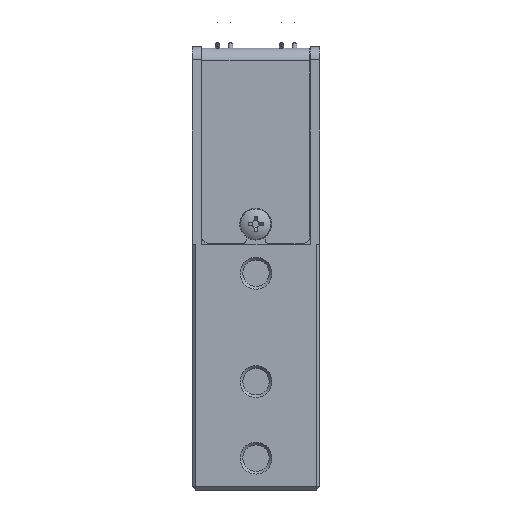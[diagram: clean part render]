
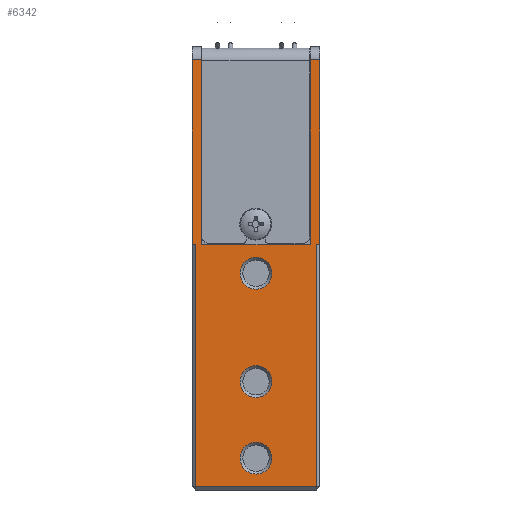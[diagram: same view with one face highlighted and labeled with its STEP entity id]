
A CAD part, left-side view. The second image highlights one B-rep face of the part: STEP entity #6342.
In plain terms, the highlighted planar face has unit normal (-1, 0, 0).
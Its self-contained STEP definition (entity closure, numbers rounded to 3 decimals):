
#269=FACE_BOUND('',#824,.T.);
#270=FACE_BOUND('',#825,.T.);
#271=FACE_BOUND('',#826,.T.);
#480=FACE_OUTER_BOUND('',#823,.T.);
#823=EDGE_LOOP('',(#4665,#4666,#4667,#4668,#4669,#4670,#4671,#4672,#4673,
#4674,#4675,#4676,#4677));
#824=EDGE_LOOP('',(#4678));
#825=EDGE_LOOP('',(#4679));
#826=EDGE_LOOP('',(#4680));
#1184=CIRCLE('',#6788,2.5);
#1187=CIRCLE('',#6794,2.5);
#1203=CIRCLE('',#6822,2.5);
#1506=LINE('',#10340,#2023);
#1616=LINE('',#10601,#2133);
#1617=LINE('',#10603,#2134);
#1618=LINE('',#10605,#2135);
#1619=LINE('',#10607,#2136);
#1620=LINE('',#10609,#2137);
#1621=LINE('',#10611,#2138);
#1622=LINE('',#10612,#2139);
#1623=LINE('',#10614,#2140);
#1624=LINE('',#10616,#2141);
#1625=LINE('',#10618,#2142);
#1626=LINE('',#10620,#2143);
#1627=LINE('',#10621,#2144);
#2023=VECTOR('',#7912,10.);
#2133=VECTOR('',#8098,10.);
#2134=VECTOR('',#8099,10.);
#2135=VECTOR('',#8100,10.);
#2136=VECTOR('',#8101,10.);
#2137=VECTOR('',#8102,10.);
#2138=VECTOR('',#8103,10.);
#2139=VECTOR('',#8104,10.);
#2140=VECTOR('',#8105,10.);
#2141=VECTOR('',#8106,10.);
#2142=VECTOR('',#8107,10.);
#2143=VECTOR('',#8108,10.);
#2144=VECTOR('',#8109,10.);
#2597=VERTEX_POINT('',#10089);
#2600=VERTEX_POINT('',#10100);
#2631=VERTEX_POINT('',#10320);
#2637=VERTEX_POINT('',#10337);
#2638=VERTEX_POINT('',#10339);
#2726=VERTEX_POINT('',#10599);
#2727=VERTEX_POINT('',#10600);
#2728=VERTEX_POINT('',#10602);
#2729=VERTEX_POINT('',#10604);
#2730=VERTEX_POINT('',#10606);
#2731=VERTEX_POINT('',#10608);
#2732=VERTEX_POINT('',#10610);
#2733=VERTEX_POINT('',#10613);
#2734=VERTEX_POINT('',#10615);
#2735=VERTEX_POINT('',#10617);
#2736=VERTEX_POINT('',#10619);
#3276=EDGE_CURVE('',#2597,#2597,#1184,.T.);
#3281=EDGE_CURVE('',#2600,#2600,#1187,.T.);
#3322=EDGE_CURVE('',#2631,#2631,#1203,.T.);
#3331=EDGE_CURVE('',#2638,#2637,#1506,.T.);
#3451=EDGE_CURVE('',#2726,#2727,#1616,.T.);
#3452=EDGE_CURVE('',#2728,#2726,#1617,.T.);
#3453=EDGE_CURVE('',#2729,#2728,#1618,.T.);
#3454=EDGE_CURVE('',#2730,#2729,#1619,.T.);
#3455=EDGE_CURVE('',#2731,#2730,#1620,.T.);
#3456=EDGE_CURVE('',#2732,#2731,#1621,.T.);
#3457=EDGE_CURVE('',#2732,#2638,#1622,.T.);
#3458=EDGE_CURVE('',#2637,#2733,#1623,.T.);
#3459=EDGE_CURVE('',#2733,#2734,#1624,.T.);
#3460=EDGE_CURVE('',#2735,#2734,#1625,.T.);
#3461=EDGE_CURVE('',#2736,#2735,#1626,.T.);
#3462=EDGE_CURVE('',#2727,#2736,#1627,.T.);
#4665=ORIENTED_EDGE('',*,*,#3451,.F.);
#4666=ORIENTED_EDGE('',*,*,#3452,.F.);
#4667=ORIENTED_EDGE('',*,*,#3453,.F.);
#4668=ORIENTED_EDGE('',*,*,#3454,.F.);
#4669=ORIENTED_EDGE('',*,*,#3455,.F.);
#4670=ORIENTED_EDGE('',*,*,#3456,.F.);
#4671=ORIENTED_EDGE('',*,*,#3457,.T.);
#4672=ORIENTED_EDGE('',*,*,#3331,.T.);
#4673=ORIENTED_EDGE('',*,*,#3458,.T.);
#4674=ORIENTED_EDGE('',*,*,#3459,.T.);
#4675=ORIENTED_EDGE('',*,*,#3460,.F.);
#4676=ORIENTED_EDGE('',*,*,#3461,.F.);
#4677=ORIENTED_EDGE('',*,*,#3462,.F.);
#4678=ORIENTED_EDGE('',*,*,#3276,.T.);
#4679=ORIENTED_EDGE('',*,*,#3281,.T.);
#4680=ORIENTED_EDGE('',*,*,#3322,.T.);
#5763=PLANE('',#6865);
#6342=ADVANCED_FACE('',(#480,#269,#270,#271),#5763,.T.);
#6788=AXIS2_PLACEMENT_3D('',#10090,#7807,#7808);
#6794=AXIS2_PLACEMENT_3D('',#10101,#7821,#7822);
#6822=AXIS2_PLACEMENT_3D('',#10321,#7894,#7895);
#6865=AXIS2_PLACEMENT_3D('',#10598,#8096,#8097);
#7807=DIRECTION('center_axis',(1.,0.,0.));
#7808=DIRECTION('ref_axis',(0.,0.,1.));
#7821=DIRECTION('center_axis',(1.,0.,0.));
#7822=DIRECTION('ref_axis',(0.,0.,1.));
#7894=DIRECTION('center_axis',(1.,0.,0.));
#7895=DIRECTION('ref_axis',(0.,0.,1.));
#7912=DIRECTION('',(0.,1.,0.));
#8096=DIRECTION('center_axis',(-1.,0.,0.));
#8097=DIRECTION('ref_axis',(0.,0.,1.));
#8098=DIRECTION('',(0.,0.,1.));
#8099=DIRECTION('',(0.,1.,0.));
#8100=DIRECTION('',(0.,0.,-1.));
#8101=DIRECTION('',(0.,1.,0.));
#8102=DIRECTION('',(0.,0.,-1.));
#8103=DIRECTION('',(0.,-1.,0.));
#8104=DIRECTION('',(0.,0.,-1.));
#8105=DIRECTION('',(0.,0.,1.));
#8106=DIRECTION('',(0.,0.,1.));
#8107=DIRECTION('',(0.,-1.,0.));
#8108=DIRECTION('',(0.,0.,1.));
#8109=DIRECTION('',(0.,1.,0.));
#10089=CARTESIAN_POINT('',(0.,-10.,14.5));
#10090=CARTESIAN_POINT('Origin',(0.,-10.,17.));
#10100=CARTESIAN_POINT('',(0.,-10.,2.5));
#10101=CARTESIAN_POINT('Origin',(0.,-10.,5.));
#10320=CARTESIAN_POINT('',(0.,-10.,31.5));
#10321=CARTESIAN_POINT('Origin',(0.,-10.,34.));
#10337=CARTESIAN_POINT('',(0.,-1.5,38.5));
#10339=CARTESIAN_POINT('',(0.,-18.5,38.5));
#10340=CARTESIAN_POINT('',(0.,-20.,38.5));
#10598=CARTESIAN_POINT('Origin',(0.,-20.,0.));
#10599=CARTESIAN_POINT('',(0.,-0.5,0.5));
#10600=CARTESIAN_POINT('',(0.,-0.5,38.5));
#10601=CARTESIAN_POINT('',(0.,-0.5,0.));
#10602=CARTESIAN_POINT('',(0.,-19.5,0.5));
#10603=CARTESIAN_POINT('',(0.,-15.,0.5));
#10604=CARTESIAN_POINT('',(0.,-19.5,38.5));
#10605=CARTESIAN_POINT('',(0.,-19.5,0.));
#10606=CARTESIAN_POINT('',(0.,-20.,38.5));
#10607=CARTESIAN_POINT('',(0.,-20.,38.5));
#10608=CARTESIAN_POINT('',(0.,-20.,67.5));
#10609=CARTESIAN_POINT('',(0.,-20.,69.5));
#10610=CARTESIAN_POINT('',(0.,-18.5,67.5));
#10611=CARTESIAN_POINT('',(0.,-11.32,67.5));
#10612=CARTESIAN_POINT('',(0.,-18.5,60.57));
#10613=CARTESIAN_POINT('',(0.,-1.5,39.7));
#10614=CARTESIAN_POINT('',(0.,-1.5,60.57));
#10615=CARTESIAN_POINT('',(0.,-1.5,67.5));
#10616=CARTESIAN_POINT('',(0.,-1.5,60.57));
#10617=CARTESIAN_POINT('',(0.,0.,67.5));
#10618=CARTESIAN_POINT('',(0.,-2.67,67.5));
#10619=CARTESIAN_POINT('',(0.,0.,38.5));
#10620=CARTESIAN_POINT('',(0.,0.,38.5));
#10621=CARTESIAN_POINT('',(0.,-20.,38.5));
